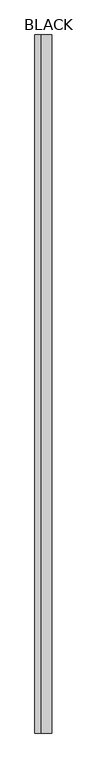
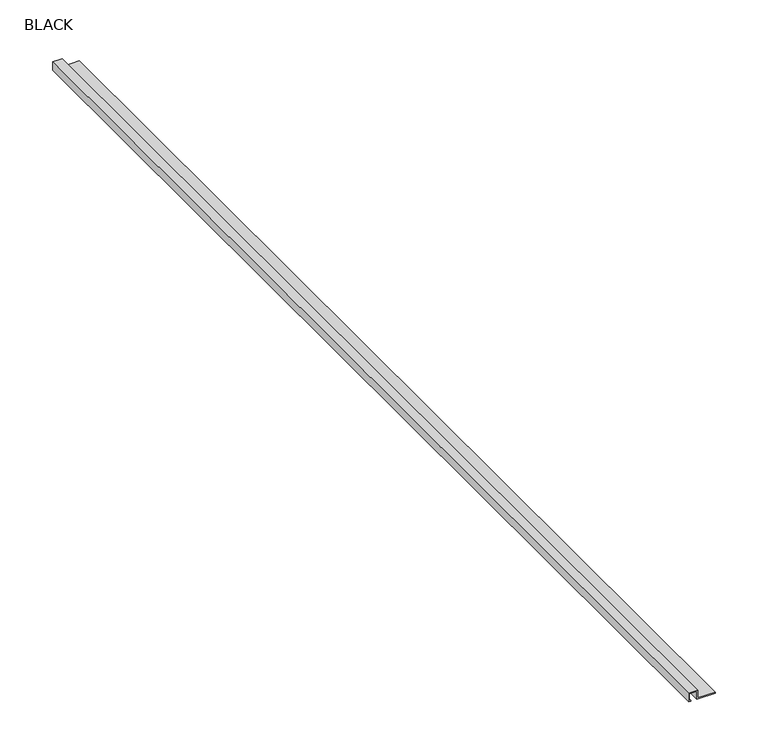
"""IFC4 building model written with IfcOpenShell, lengths in millimetres: proxy geometry, PORTOBELLO - ICON 1X120 : BLACK."""

from ifc_helpers import new_model, si_unit, frame, origin, place, context, project, spatial, polyline, outline, extrude, source, transform, mapped, element, save


def black_7f78d727(model_context):
    return source(origin(), model_context, "Body", "SweptSolid", [
        extrude(outline(polyline([(1.0, -5.0), (-9.0, -5.0), (-9.0, -2.7289948), (-7.7920635, -2.7289948), (-6.5210583, -4.0), (0.0, -4.0), (0.0, 4.0), (-9.0, 4.0), (-9.0, 23.9106111), (-8.0, 23.9106111), (-8.0, 5.0), (1.0, 5.0), (1.0, -5.0)])), frame((0.0, -600.0, 0.0), z_axis=(0.0, 1.0, 0.0), x_axis=(0.0, 0.0, 1.0)), (0.0, 0.0, 1.0), 1200.0),
    ])


if __name__ == "__main__":
    model = new_model("IFC4")
    model_context = context("Model", 3, world=origin())
    ifc_project = project(units=[si_unit("LENGTHUNIT", "METRE", prefix="MILLI")], contexts=[model_context])
    site = spatial("IfcSite", under=ifc_project)
    building = spatial("IfcBuilding", under=site)
    placement = place(None, origin())
    black_shape = black_7f78d727(model_context)
    element("IfcBuildingElementProxy", 1, Name="PORTOBELLO - ICON 1X120 : BLACK", ObjectType="PORTOBELLO - ICON 1X120 : BLACK", at=placement, inside=building, context=model_context, shape_type="MappedRepresentation", body=[
        mapped(black_shape, transform((0.0, 0.0, 0.0), x_axis=(1.0, 0.0, 0.0), y_axis=(0.0, 1.0, 0.0), z_axis=(0.0, 0.0, 1.0))),
    ])
    save(model, "model.ifc")
